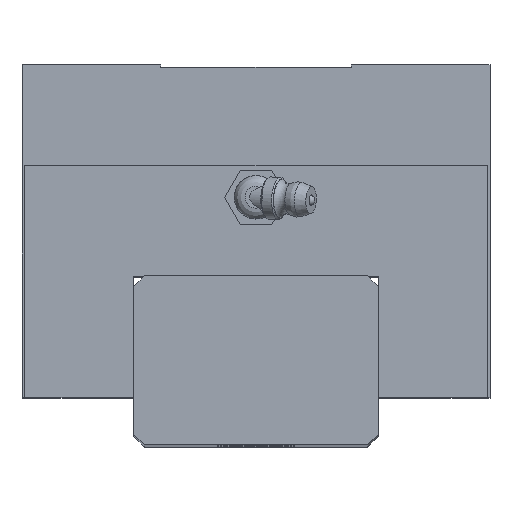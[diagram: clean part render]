
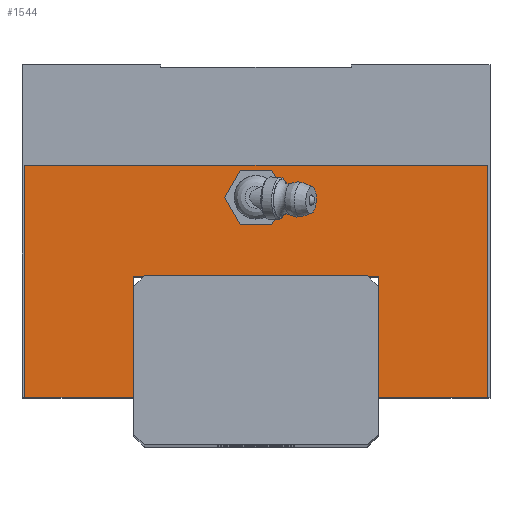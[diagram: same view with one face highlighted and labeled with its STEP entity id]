
A CAD part, top view. The second image highlights one B-rep face of the part: STEP entity #1544.
In plain terms, the highlighted planar face has unit normal (0, 0, 1).
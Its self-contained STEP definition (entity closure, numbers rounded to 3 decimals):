
#712=CARTESIAN_POINT('',(4.0,19.8,64.5));
#713=VERTEX_POINT('',#712);
#714=CARTESIAN_POINT('',(0.0,19.8,64.5));
#715=DIRECTION('',(0.0,0.0,-1.0));
#716=DIRECTION('',(-1.0,0.0,0.0));
#717=AXIS2_PLACEMENT_3D('',#714,#715,#716);
#718=CIRCLE('',#717,4.0);
#719=EDGE_CURVE('',#713,#713,#718,.T.);
#1226=CARTESIAN_POINT('',(22.5,-16.9,64.5));
#1227=VERTEX_POINT('',#1226);
#1251=CARTESIAN_POINT('',(42.5,-16.9,64.5));
#1252=VERTEX_POINT('',#1251);
#1259=CARTESIAN_POINT('',(22.5,-16.9,64.5));
#1260=DIRECTION('',(1.0,0.0,0.0));
#1261=VECTOR('',#1260,20.0);
#1262=LINE('',#1259,#1261);
#1263=EDGE_CURVE('',#1227,#1252,#1262,.T.);
#1275=CARTESIAN_POINT('',(-22.5,-16.9,64.5));
#1276=VERTEX_POINT('',#1275);
#1283=CARTESIAN_POINT('',(-42.5,-16.9,64.5));
#1284=VERTEX_POINT('',#1283);
#1285=CARTESIAN_POINT('',(-42.5,-16.9,64.5));
#1286=DIRECTION('',(1.0,0.0,0.0));
#1287=VECTOR('',#1286,20.0);
#1288=LINE('',#1285,#1287);
#1289=EDGE_CURVE('',#1284,#1276,#1288,.T.);
#1328=CARTESIAN_POINT('',(22.5,5.3,64.5));
#1329=VERTEX_POINT('',#1328);
#1330=CARTESIAN_POINT('',(22.5,-16.9,64.5));
#1331=DIRECTION('',(0.0,1.0,0.0));
#1332=VECTOR('',#1331,22.2);
#1333=LINE('',#1330,#1332);
#1334=EDGE_CURVE('',#1227,#1329,#1333,.T.);
#1426=CARTESIAN_POINT('',(42.5,25.7,64.5));
#1427=VERTEX_POINT('',#1426);
#1434=CARTESIAN_POINT('',(42.5,-16.9,64.5));
#1435=DIRECTION('',(0.0,1.0,0.0));
#1436=VECTOR('',#1435,42.6);
#1437=LINE('',#1434,#1436);
#1438=EDGE_CURVE('',#1252,#1427,#1437,.T.);
#1467=CARTESIAN_POINT('',(-42.5,25.7,64.5));
#1468=VERTEX_POINT('',#1467);
#1475=CARTESIAN_POINT('',(42.5,25.7,64.5));
#1476=DIRECTION('',(-1.0,0.0,0.0));
#1477=VECTOR('',#1476,85.0);
#1478=LINE('',#1475,#1477);
#1479=EDGE_CURVE('',#1427,#1468,#1478,.T.);
#1504=CARTESIAN_POINT('',(-42.5,25.7,64.5));
#1505=DIRECTION('',(0.0,-1.0,0.0));
#1506=VECTOR('',#1505,42.6);
#1507=LINE('',#1504,#1506);
#1508=EDGE_CURVE('',#1468,#1284,#1507,.T.);
#1514=CARTESIAN_POINT('',(0.0,0.0,64.5));
#1515=DIRECTION('',(0.0,0.0,1.0));
#1516=DIRECTION('',(1.0,0.0,0.0));
#1517=AXIS2_PLACEMENT_3D('',#1514,#1515,#1516);
#1518=PLANE('',#1517);
#1519=ORIENTED_EDGE('',*,*,#1334,.F.);
#1520=ORIENTED_EDGE('',*,*,#1263,.T.);
#1521=ORIENTED_EDGE('',*,*,#1438,.T.);
#1522=ORIENTED_EDGE('',*,*,#1479,.T.);
#1523=ORIENTED_EDGE('',*,*,#1508,.T.);
#1524=ORIENTED_EDGE('',*,*,#1289,.T.);
#1525=CARTESIAN_POINT('',(-22.5,5.3,64.5));
#1526=VERTEX_POINT('',#1525);
#1527=CARTESIAN_POINT('',(-22.5,-16.9,64.5));
#1528=DIRECTION('',(0.0,1.0,0.0));
#1529=VECTOR('',#1528,22.2);
#1530=LINE('',#1527,#1529);
#1531=EDGE_CURVE('',#1276,#1526,#1530,.T.);
#1532=ORIENTED_EDGE('',*,*,#1531,.T.);
#1533=CARTESIAN_POINT('',(22.5,5.3,64.5));
#1534=DIRECTION('',(-1.0,0.0,0.0));
#1535=VECTOR('',#1534,45.0);
#1536=LINE('',#1533,#1535);
#1537=EDGE_CURVE('',#1329,#1526,#1536,.T.);
#1538=ORIENTED_EDGE('',*,*,#1537,.F.);
#1539=EDGE_LOOP('',(#1519,#1520,#1521,#1522,#1523,#1524,#1532,#1538));
#1540=FACE_OUTER_BOUND('',#1539,.T.);
#1541=ORIENTED_EDGE('',*,*,#719,.T.);
#1542=EDGE_LOOP('',(#1541));
#1543=FACE_BOUND('',#1542,.T.);
#1544=ADVANCED_FACE('',(#1540,#1543),#1518,.T.);
